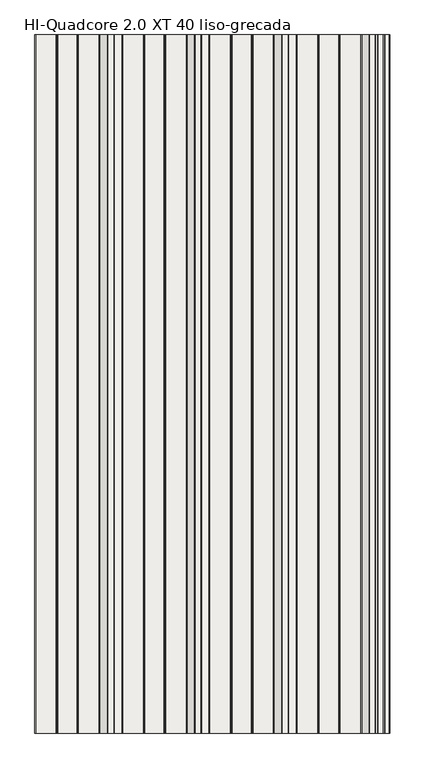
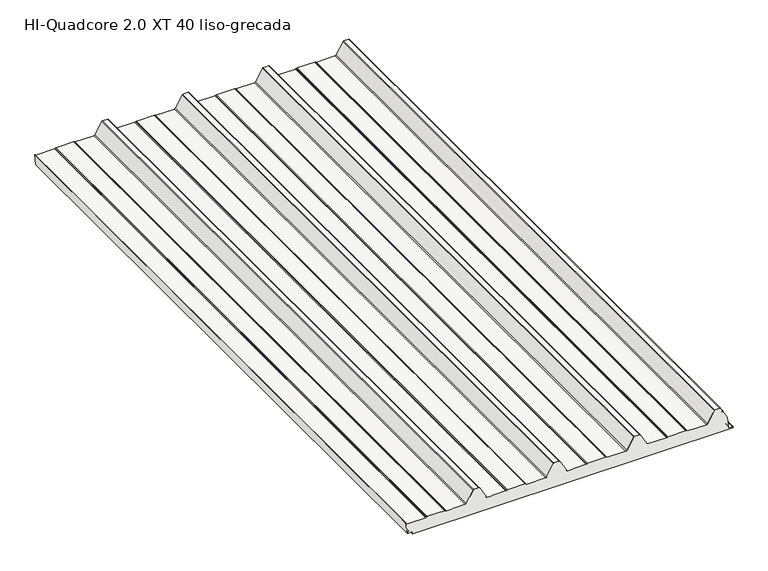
"""IFC4 building model written with IfcOpenShell, lengths in millimetres: slab geometry, HI_QuadCore2.0XT-XT DUAL : HI-Quadcore 2.0 XT 40 liso-grecada."""

import ifcopenshell
import ifcopenshell.guid

model = None  # the IFC model being written
_history = None  # IfcOwnerHistory: only IFC2X3 demands one
_inside = {}  # id of a spatial element -> (the spatial element, [elements in it])
_under = {}  # id of a project, library or spatial element -> (it, [spatial elements below it])
_declared = {}  # id of a project -> (the project, [libraries it declares])
_typed = {}  # id of a type object -> (the type object, [elements of that type])
_made_of = {}  # id of a material, layer set ... -> (it, [elements and type objects made of it])


def new_model(schema):
    """Start an empty IFC model of exactly this schema.

    Asked for "IFC4X3", IfcOpenShell would pick the latest addendum, in which some entities
    have other attributes; the version numbers below select the first issue.
    IFC2X3 requires an IfcOwnerHistory on every rooted entity: one is made here for all.
    """
    global model, _history
    if schema == "IFC4X3":
        model = ifcopenshell.file(schema_version=(4, 3, 0, 0))
    else:
        model = ifcopenshell.file(schema=schema)
    _inside.clear()
    _under.clear()
    _declared.clear()
    _typed.clear()
    _made_of.clear()
    _history = None
    if model.schema == "IFC2X3":
        org = make("IfcOrganization", Name="unknown")
        user = make(
            "IfcPersonAndOrganization",
            ThePerson=make("IfcPerson", FamilyName="unknown"),
            TheOrganization=org,
        )
        app = make(
            "IfcApplication",
            ApplicationDeveloper=org,
            Version="unknown",
            ApplicationFullName="unknown",
            ApplicationIdentifier="unknown",
        )
        _history = make(
            "IfcOwnerHistory",
            OwningUser=user,
            OwningApplication=app,
            ChangeAction="ADDED",
            CreationDate=0,
        )
    return model


def make(cls, **values):
    """One entity of the class cls with the attributes given. An attribute that is None is left unset."""
    return model.create_entity(
        cls, **{name: value for name, value in values.items() if value is not None}
    )


def rooted(cls, **values):
    """An entity with a GlobalId (a new one), such as an element, a storey or a relation."""
    return make(cls, GlobalId=ifcopenshell.guid.new(), OwnerHistory=_history, **values)


def si_unit(unit_type, name, prefix=None):
    """IfcSIUnit, for example si_unit("LENGTHUNIT", "METRE", prefix="MILLI")."""
    return make("IfcSIUnit", UnitType=unit_type, Prefix=prefix, Name=name)


def assignment(units):
    """IfcUnitAssignment: the units of a project."""
    return None if units is None else make("IfcUnitAssignment", Units=units)


def point(xyz):
    """IfcCartesianPoint."""
    return None if xyz is None else make("IfcCartesianPoint", Coordinates=xyz)


def direction(xyz):
    """IfcDirection."""
    return None if xyz is None else make("IfcDirection", DirectionRatios=xyz)


def frame(location, z_axis=None, x_axis=None):
    """IfcAxis2Placement3D, a coordinate frame: its origin and axes. An axis left out is left unset."""
    return make(
        "IfcAxis2Placement3D",
        Location=point(location),
        Axis=direction(z_axis),
        RefDirection=direction(x_axis),
    )


def frame_2d(location, x_axis=None):
    """IfcAxis2Placement2D, a coordinate frame in the plane: its origin and x axis."""
    return make(
        "IfcAxis2Placement2D", Location=point(location), RefDirection=direction(x_axis)
    )


def origin():
    """The frame at (0, 0, 0) with its axes left unset."""
    return frame((0.0, 0.0, 0.0))


def place(relative_to, where):
    """IfcLocalPlacement: puts the frame where relative to a parent placement (None: the world)."""
    return make(
        "IfcLocalPlacement", PlacementRelTo=relative_to, RelativePlacement=where
    )


def context(
    kind, dimensions, precision=None, world=None, true_north=None, identifier=None
):
    """IfcGeometricRepresentationContext, for example the 3D "Model" context."""
    return make(
        "IfcGeometricRepresentationContext",
        ContextIdentifier=identifier,
        ContextType=kind,
        CoordinateSpaceDimension=dimensions,
        Precision=precision,
        WorldCoordinateSystem=world,
        TrueNorth=true_north,
    )


def project(units=None, contexts=None):
    """IfcProject with its units and contexts."""
    return rooted(
        "IfcProject",
        Name="project",
        RepresentationContexts=contexts,
        UnitsInContext=assignment(units),
    )


def spatial(cls, under=None, at=None, **own):
    """A site, building, storey or space (cls), placed at a placement, below another one or the project."""
    s = rooted(cls, ObjectPlacement=at, **own)
    if under is not None:
        _under.setdefault(under.id(), (under, []))[1].append(s)
    return s


def polyline(points):
    """IfcPolyline through the points."""
    return make("IfcPolyline", Points=[point(p) for p in points])


def circle_curve(where, radius):
    """IfcCircle in the frame where."""
    return make("IfcCircle", Position=where, Radius=radius)


def trimmed(basis, trim1, trim2, sense, master):
    """IfcTrimmedCurve: the piece of a basis curve between two trims."""
    return make(
        "IfcTrimmedCurve",
        BasisCurve=basis,
        Trim1=trim1,
        Trim2=trim2,
        SenseAgreement=sense,
        MasterRepresentation=master,
    )


def segment(curve, same_sense, transition):
    """IfcCompositeCurveSegment."""
    return make(
        "IfcCompositeCurveSegment",
        Transition=transition,
        SameSense=same_sense,
        ParentCurve=curve,
    )


def composite_curve(segments, self_intersect=None):
    """IfcCompositeCurve: segments joined end to end."""
    return make("IfcCompositeCurve", Segments=segments, SelfIntersect=self_intersect)


def outline(outer, holes=None, kind="AREA"):
    """IfcArbitraryClosedProfileDef: a profile drawn as a closed curve; with holes, ...WithVoids."""
    if holes is None:
        return make("IfcArbitraryClosedProfileDef", ProfileType=kind, OuterCurve=outer)
    return make(
        "IfcArbitraryProfileDefWithVoids",
        ProfileType=kind,
        OuterCurve=outer,
        InnerCurves=holes,
    )


def extrude(swept, where, along, depth):
    """IfcExtrudedAreaSolid: the profile swept, set in the frame where, extruded along a direction by depth."""
    return make(
        "IfcExtrudedAreaSolid",
        SweptArea=swept,
        Position=where,
        ExtrudedDirection=direction(along),
        Depth=depth,
    )


def shape(context_of_items, identifier, shape_type, items):
    """IfcShapeRepresentation: the items that make up one representation, for example the "Body"."""
    return make(
        "IfcShapeRepresentation",
        ContextOfItems=context_of_items,
        RepresentationIdentifier=identifier,
        RepresentationType=shape_type,
        Items=items,
    )


def source(mapping_origin, context_of_items, identifier, shape_type, items):
    """IfcRepresentationMap: a shape defined once, which mapped items show again and again."""
    return make(
        "IfcRepresentationMap",
        MappingOrigin=mapping_origin,
        MappedRepresentation=shape(context_of_items, identifier, shape_type, items),
    )


def transform(
    local_origin,
    x_axis=None,
    y_axis=None,
    z_axis=None,
    scale=None,
    scale2=None,
    scale3=None,
    uniform=True,
):
    """IfcCartesianTransformationOperator3D, or its non-uniform kind. x_axis, y_axis, z_axis: its Axis1, 2, 3."""
    if uniform:
        return make(
            "IfcCartesianTransformationOperator3D",
            Axis1=direction(x_axis),
            Axis2=direction(y_axis),
            LocalOrigin=point(local_origin),
            Scale=scale,
            Axis3=direction(z_axis),
        )
    return make(
        "IfcCartesianTransformationOperator3DnonUniform",
        Axis1=direction(x_axis),
        Axis2=direction(y_axis),
        LocalOrigin=point(local_origin),
        Scale=scale,
        Axis3=direction(z_axis),
        Scale2=scale2,
        Scale3=scale3,
    )


def mapped(mapping_source, mapping_target):
    """IfcMappedItem: shows the shape of a source again, moved by a transform."""
    return make(
        "IfcMappedItem", MappingSource=mapping_source, MappingTarget=mapping_target
    )


def made_of(thing, what):
    """Note that an element or type object is made of a material, layer set ...; save() writes the relation."""
    if what is not None:
        _made_of.setdefault(what.id(), (what, []))[1].append(thing)
    return thing


def element(
    cls,
    number,
    at=None,
    inside=None,
    cuts=None,
    type_object=None,
    material=None,
    context=None,
    identifier="Body",
    shape_type=None,
    held_by="IfcProductDefinitionShape",
    body=None,
    shapes=None,
    **own,
):
    """One element of the class cls, such as IfcWall. Its Tag is "e" and its number.

    at: its placement. inside: the storey or other place that contains it. cuts: it is an
    opening in that element (IfcRelVoidsElement). A single representation is given by context,
    identifier, shape_type and body (its items); several are given by shapes. held_by: the class
    of the entity that holds the representations. save() writes the other relations.
    """
    e = rooted(cls, Tag="e%d" % number, ObjectPlacement=at, **own)
    if body is not None:
        shapes = [shape(context, identifier, shape_type, body)]
    if shapes is not None:
        e.Representation = make(held_by, Representations=shapes)
    if inside is not None:
        _inside.setdefault(inside.id(), (inside, []))[1].append(e)
    if cuts is not None:
        rooted(
            "IfcRelVoidsElement", RelatingBuildingElement=cuts, RelatedOpeningElement=e
        )
    if type_object is not None:
        _typed.setdefault(type_object.id(), (type_object, []))[1].append(e)
    return made_of(e, material)


def aggregate(whole, parts):
    """IfcRelAggregates: a whole, such as a stair, and the parts it consists of."""
    return rooted("IfcRelAggregates", RelatingObject=whole, RelatedObjects=parts)


def save(model, path):
    """Write the relations noted so far, then the file.

    IfcRelAggregates (storeys below a building ...), IfcRelContainedInSpatialStructure (elements
    in a storey), IfcRelDefinesByType, IfcRelAssociatesMaterial and IfcRelDeclares: one each for
    every whole, place, type object, material and project.
    """
    for whole, parts in _under.values():
        aggregate(whole, parts)
    for where, things in _inside.values():
        rooted(
            "IfcRelContainedInSpatialStructure",
            RelatedElements=things,
            RelatingStructure=where,
        )
    for kind, things in _typed.values():
        rooted("IfcRelDefinesByType", RelatedObjects=things, RelatingType=kind)
    for what, things in _made_of.values():
        rooted("IfcRelAssociatesMaterial", RelatedObjects=things, RelatingMaterial=what)
    for by, libraries in _declared.values():
        rooted("IfcRelDeclares", RelatingContext=by, RelatedDefinitions=libraries)
    model.write(path)


def hi_quadcore_2_0_xt_40_liso_grecada_7a4d06f4(model_context):
    return source(origin(), model_context, "Body", "SweptSolid", [
        extrude(outline(composite_curve([segment(polyline([(41.2667387, 1181.036551), (67.9197266, 1166.0442453)]), True, "CONTINUOUS"), segment(trimmed(circle_curve(frame_2d((66.9392041, 1164.3010942)), 2.0), [point((67.9197266, 1166.0442453))], [point((65.939301, 1166.033201))], True, "CARTESIAN"), True, "CONTINUOUS"), segment(polyline([(65.939301, 1166.033201), (64.3282068, 1165.1031555), (64.7281681, 1164.4103128), (66.3392623, 1165.3403583)]), True, "CONTINUOUS"), segment(trimmed(circle_curve(frame_2d((66.9392041, 1164.3010942)), 1.2), [point((66.3392623, 1165.3403583))], [point((67.5275176, 1165.3469849))], False, "CARTESIAN"), True, "CONTINUOUS"), segment(polyline([(67.5275176, 1165.3469849), (78.0785747, 1159.4120152)]), True, "CONTINUOUS"), segment(trimmed(circle_curve(frame_2d((77.0, 1157.4945491)), 2.2), [point((78.0785747, 1159.4120152))], [point((79.2, 1157.4945491))], False, "CARTESIAN"), True, "CONTINUOUS"), segment(polyline([(79.2, 1157.4945491), (79.2, 1142.1184247)]), True, "CONTINUOUS"), segment(trimmed(circle_curve(frame_2d((77.0, 1142.1184247)), 2.2), [point((79.2, 1142.1184247))], [point((78.0662182, 1140.1940602))], False, "CARTESIAN"), True, "CONTINUOUS"), segment(polyline([(78.0662182, 1140.1940602), (41.1583504, 1119.7447946)]), True, "CONTINUOUS"), segment(trimmed(circle_curve(frame_2d((43.0, 1116.4208923)), 3.8), [point((41.1583504, 1119.7447946))], [point((39.2, 1116.4208923))], True, "CARTESIAN"), True, "CONTINUOUS"), segment(polyline([(39.2, 1116.4208923), (39.2, 1057.5510443)]), True, "CONTINUOUS"), segment(trimmed(circle_curve(frame_2d((43.0, 1057.5510443)), 3.8), [point((39.2, 1057.5510443))], [point((39.6973596, 1055.671532))], True, "CARTESIAN"), True, "CONTINUOUS"), segment(polyline([(39.6973596, 1055.671532), (40.912055, 1053.5370944)]), True, "CONTINUOUS"), segment(trimmed(circle_curve(frame_2d((39.0, 1052.4489557)), 2.2), [point((40.912055, 1053.5370944))], [point((41.2, 1052.4489557))], False, "CARTESIAN"), True, "CONTINUOUS"), segment(polyline([(41.2, 1052.4489557), (41.2, 997.5510443)]), True, "CONTINUOUS"), segment(trimmed(circle_curve(frame_2d((39.0, 997.5510443)), 2.2), [point((41.2, 997.5510443))], [point((40.912055, 996.4629056))], False, "CARTESIAN"), True, "CONTINUOUS"), segment(polyline([(40.912055, 996.4629056), (39.6973596, 994.328468)]), True, "CONTINUOUS"), segment(trimmed(circle_curve(frame_2d((43.0, 992.4489557)), 3.8), [point((39.6973596, 994.328468))], [point((39.2, 992.4489557))], True, "CARTESIAN"), True, "CONTINUOUS"), segment(polyline([(39.2, 992.4489557), (39.2, 934.2545425)]), True, "CONTINUOUS"), segment(trimmed(circle_curve(frame_2d((43.0, 934.2545425)), 3.8), [point((39.2, 934.2545425))], [point((41.1370073, 930.9425554))], True, "CARTESIAN"), True, "CONTINUOUS"), segment(polyline([(41.1370073, 930.9425554), (78.0785747, 910.1629237)]), True, "CONTINUOUS"), segment(trimmed(circle_curve(frame_2d((77.0, 908.2454575)), 2.2), [point((78.0785747, 910.1629237))], [point((79.2, 908.2454575))], False, "CARTESIAN"), True, "CONTINUOUS"), segment(polyline([(79.2, 908.2454575), (79.2, 891.7545425)]), True, "CONTINUOUS"), segment(trimmed(circle_curve(frame_2d((77.0, 891.7545425)), 2.2), [point((79.2, 891.7545425))], [point((78.0785747, 889.8370763))], False, "CARTESIAN"), True, "CONTINUOUS"), segment(polyline([(78.0785747, 889.8370763), (41.1370073, 869.0574446)]), True, "CONTINUOUS"), segment(trimmed(circle_curve(frame_2d((43.0, 865.7454575)), 3.8), [point((41.1370073, 869.0574446))], [point((39.2, 865.7454575))], True, "CARTESIAN"), True, "CONTINUOUS"), segment(polyline([(39.2, 865.7454575), (39.2, 807.5510443)]), True, "CONTINUOUS"), segment(trimmed(circle_curve(frame_2d((43.0, 807.5510443)), 3.8), [point((39.2, 807.5510443))], [point((39.6973596, 805.671532))], True, "CARTESIAN"), True, "CONTINUOUS"), segment(polyline([(39.6973596, 805.671532), (40.912055, 803.5370944)]), True, "CONTINUOUS"), segment(trimmed(circle_curve(frame_2d((39.0, 802.4489557)), 2.2), [point((40.912055, 803.5370944))], [point((41.2, 802.4489557))], False, "CARTESIAN"), True, "CONTINUOUS"), segment(polyline([(41.2, 802.4489557), (41.2, 747.5510443)]), True, "CONTINUOUS"), segment(trimmed(circle_curve(frame_2d((39.0, 747.5510443)), 2.2), [point((41.2, 747.5510443))], [point((40.912055, 746.4629056))], False, "CARTESIAN"), True, "CONTINUOUS"), segment(polyline([(40.912055, 746.4629056), (39.6973596, 744.328468)]), True, "CONTINUOUS"), segment(trimmed(circle_curve(frame_2d((43.0, 742.4489557)), 3.8), [point((39.6973596, 744.328468))], [point((39.2, 742.4489557))], True, "CARTESIAN"), True, "CONTINUOUS"), segment(polyline([(39.2, 742.4489557), (39.2, 684.2545425)]), True, "CONTINUOUS"), segment(trimmed(circle_curve(frame_2d((43.0, 684.2545425)), 3.8), [point((39.2, 684.2545425))], [point((41.1370073, 680.9425554))], True, "CARTESIAN"), True, "CONTINUOUS"), segment(polyline([(41.1370073, 680.9425554), (78.0785747, 660.1629237)]), True, "CONTINUOUS"), segment(trimmed(circle_curve(frame_2d((77.0, 658.2454575)), 2.2), [point((78.0785747, 660.1629237))], [point((79.2, 658.2454575))], False, "CARTESIAN"), True, "CONTINUOUS"), segment(polyline([(79.2, 658.2454575), (79.2, 641.7545425)]), True, "CONTINUOUS"), segment(trimmed(circle_curve(frame_2d((77.0, 641.7545425)), 2.2), [point((79.2, 641.7545425))], [point((78.0785747, 639.8370763))], False, "CARTESIAN"), True, "CONTINUOUS"), segment(polyline([(78.0785747, 639.8370763), (41.1370073, 619.0574446)]), True, "CONTINUOUS"), segment(trimmed(circle_curve(frame_2d((43.0, 615.7454575)), 3.8), [point((41.1370073, 619.0574446))], [point((39.2, 615.7454575))], True, "CARTESIAN"), True, "CONTINUOUS"), segment(polyline([(39.2, 615.7454575), (39.2, 557.5510443)]), True, "CONTINUOUS"), segment(trimmed(circle_curve(frame_2d((43.0, 557.5510443)), 3.8), [point((39.2, 557.5510443))], [point((39.6973596, 555.671532))], True, "CARTESIAN"), True, "CONTINUOUS"), segment(polyline([(39.6973596, 555.671532), (40.912055, 553.5370944)]), True, "CONTINUOUS"), segment(trimmed(circle_curve(frame_2d((39.0, 552.4489557)), 2.2), [point((40.912055, 553.5370944))], [point((41.2, 552.4489557))], False, "CARTESIAN"), True, "CONTINUOUS"), segment(polyline([(41.2, 552.4489557), (41.2, 497.5510443)]), True, "CONTINUOUS"), segment(trimmed(circle_curve(frame_2d((39.0, 497.5510443)), 2.2), [point((41.2, 497.5510443))], [point((40.912055, 496.4629056))], False, "CARTESIAN"), True, "CONTINUOUS"), segment(polyline([(40.912055, 496.4629056), (39.6973596, 494.328468)]), True, "CONTINUOUS"), segment(trimmed(circle_curve(frame_2d((43.0, 492.4489557)), 3.8), [point((39.6973596, 494.328468))], [point((39.2, 492.4489557))], True, "CARTESIAN"), True, "CONTINUOUS"), segment(polyline([(39.2, 492.4489557), (39.2, 434.2545425)]), True, "CONTINUOUS"), segment(trimmed(circle_curve(frame_2d((43.0, 434.2545425)), 3.8), [point((39.2, 434.2545425))], [point((41.1370073, 430.9425554))], True, "CARTESIAN"), True, "CONTINUOUS"), segment(polyline([(41.1370073, 430.9425554), (78.0785747, 410.1629237)]), True, "CONTINUOUS"), segment(trimmed(circle_curve(frame_2d((77.0, 408.2454575)), 2.2), [point((78.0785747, 410.1629237))], [point((79.2, 408.2454575))], False, "CARTESIAN"), True, "CONTINUOUS"), segment(polyline([(79.2, 408.2454575), (79.2, 391.7545425)]), True, "CONTINUOUS"), segment(trimmed(circle_curve(frame_2d((77.0, 391.7545425)), 2.2), [point((79.2, 391.7545425))], [point((78.0785747, 389.8370763))], False, "CARTESIAN"), True, "CONTINUOUS"), segment(polyline([(78.0785747, 389.8370763), (41.1370073, 369.0574446)]), True, "CONTINUOUS"), segment(trimmed(circle_curve(frame_2d((43.0, 365.7454575)), 3.8), [point((41.1370073, 369.0574446))], [point((39.2, 365.7454575))], True, "CARTESIAN"), True, "CONTINUOUS"), segment(polyline([(39.2, 365.7454575), (39.2, 307.5510443)]), True, "CONTINUOUS"), segment(trimmed(circle_curve(frame_2d((43.0, 307.5510443)), 3.8), [point((39.2, 307.5510443))], [point((39.6973596, 305.671532))], True, "CARTESIAN"), True, "CONTINUOUS"), segment(polyline([(39.6973596, 305.671532), (40.912055, 303.5370944)]), True, "CONTINUOUS"), segment(trimmed(circle_curve(frame_2d((39.0, 302.4489557)), 2.2), [point((40.912055, 303.5370944))], [point((41.2, 302.4489557))], False, "CARTESIAN"), True, "CONTINUOUS"), segment(polyline([(41.2, 302.4489557), (41.2, 247.5510443)]), True, "CONTINUOUS"), segment(trimmed(circle_curve(frame_2d((39.0, 247.5510443)), 2.2), [point((41.2, 247.5510443))], [point((40.912055, 246.4629056))], False, "CARTESIAN"), True, "CONTINUOUS"), segment(polyline([(40.912055, 246.4629056), (39.6973596, 244.328468)]), True, "CONTINUOUS"), segment(trimmed(circle_curve(frame_2d((43.0, 242.4489557)), 3.8), [point((39.6973596, 244.328468))], [point((39.2, 242.4489557))], True, "CARTESIAN"), True, "CONTINUOUS"), segment(polyline([(39.2, 242.4489557), (39.2, 184.6545425)]), True, "CONTINUOUS"), segment(trimmed(circle_curve(frame_2d((43.0, 184.6545425)), 3.8), [point((39.2, 184.6545425))], [point((41.2048889, 181.3052775))], True, "CARTESIAN"), True, "CONTINUOUS"), segment(polyline([(41.2048889, 181.3052775), (7.0308356, 184.4622222), (7.2414508, 185.8457731), (11.9758653, 185.8456418)]), True, "CONTINUOUS"), segment(trimmed(circle_curve(frame_2d((11.9759207, 187.8456418)), 2.0), [point((11.9758653, 185.8456418))], [point((13.390095, 186.4313891))], True, "CARTESIAN"), True, "CONTINUOUS"), segment(polyline([(13.390095, 186.4313891), (15.4963556, 188.5375329), (14.9306702, 189.1032183), (12.8244253, 186.9970902)]), True, "CONTINUOUS"), segment(trimmed(circle_curve(frame_2d((11.9759207, 187.8456418)), 1.2), [point((12.8244253, 186.9970902))], [point((11.9763297, 186.6456419))], False, "CARTESIAN"), True, "CONTINUOUS"), segment(polyline([(11.9763297, 186.6456419), (8.3337062, 186.6457428)]), True, "CONTINUOUS"), segment(trimmed(circle_curve(frame_2d((8.3337394, 187.8457428)), 1.2), [point((8.3337062, 186.6457428))], [point((7.1369439, 187.7581044))], False, "CARTESIAN"), True, "CONTINUOUS"), segment(polyline([(7.1369439, 187.7581044), (6.3740035, 198.1768616)]), True, "CONTINUOUS"), segment(trimmed(circle_curve(frame_2d((3.5874027, 197.9032632)), 2.8), [point((6.3740035, 198.1768616))], [point((3.5874804, 200.7032632))], True, "CARTESIAN"), True, "CONTINUOUS"), segment(polyline([(3.5874804, 200.7032632), (1.9756233, 200.7033079)]), True, "CONTINUOUS"), segment(trimmed(circle_curve(frame_2d((1.9756562, 201.9033076)), 1.1999997), [point((1.9756233, 200.7033079))], [point((0.7756565, 201.9033408))], False, "CARTESIAN"), True, "CONTINUOUS"), segment(polyline([(0.7756565, 201.9033408), (0.8032689, 1197.9136557)]), True, "CONTINUOUS"), segment(trimmed(circle_curve(frame_2d((2.0032353, 1197.9046782)), 1.2), [point((0.8032689, 1197.9136557))], [point((2.0032686, 1199.1046782))], False, "CARTESIAN"), True, "CONTINUOUS"), segment(polyline([(2.0032686, 1199.1046782), (2.9118044, 1199.104653)]), True, "CONTINUOUS"), segment(trimmed(circle_curve(frame_2d((2.9117711, 1197.9046533)), 1.1999997), [point((2.9118044, 1199.104653))], [point((4.1105786, 1197.9581323))], False, "CARTESIAN"), True, "CONTINUOUS"), segment(polyline([(4.1105786, 1197.9581323), (5.0061949, 1186.1323972)]), True, "CONTINUOUS"), segment(trimmed(circle_curve(frame_2d((7.7981993, 1186.3438482)), 2.8), [point((5.0061949, 1186.1323972))], [point((7.7981217, 1183.5438482))], True, "CARTESIAN"), True, "CONTINUOUS"), segment(polyline([(7.7981217, 1183.5438482), (11.7460458, 1183.5455151)]), True, "CONTINUOUS"), segment(trimmed(circle_curve(frame_2d((11.7411592, 1182.3429645)), 1.2025605), [point((11.7460458, 1183.5455151))], [point((12.5937174, 1183.1910778))], False, "CARTESIAN"), True, "CONTINUOUS"), segment(polyline([(12.5937174, 1183.1910778), (14.0134457, 1181.7779905), (14.5791311, 1182.3436759), (13.1649724, 1183.757913), (41.2667387, 1181.036551)]), True, "CONTINUOUS")], self_intersect=False)), frame((0.0, 0.0, 0.0), z_axis=(0.0, 1.0, 0.0), x_axis=(0.0, 0.0, 1.0)), (0.0, 0.0, 1.0), 2000.0),
    ])


if __name__ == "__main__":
    model = new_model("IFC4")
    model_context = context("Model", 3, world=origin())
    ifc_project = project(units=[si_unit("LENGTHUNIT", "METRE", prefix="MILLI")], contexts=[model_context])
    site = spatial("IfcSite", under=ifc_project)
    building = spatial("IfcBuilding", under=site)
    placement = place(None, origin())
    hi_quadcore_2_0_xt_40_liso_grecada_shape = hi_quadcore_2_0_xt_40_liso_grecada_7a4d06f4(model_context)
    element("IfcSlab", 1, ObjectType="HI_QuadCore2.0XT-XT DUAL : HI-Quadcore 2.0 XT 40 liso-grecada", at=placement, inside=building, context=model_context, shape_type="MappedRepresentation", body=[
        mapped(hi_quadcore_2_0_xt_40_liso_grecada_shape, transform((0.0, 0.0, 0.0), x_axis=(1.0, 0.0, 0.0), y_axis=(0.0, 1.0, 0.0), z_axis=(0.0, 0.0, 1.0))),
    ])
    save(model, "model.ifc")
